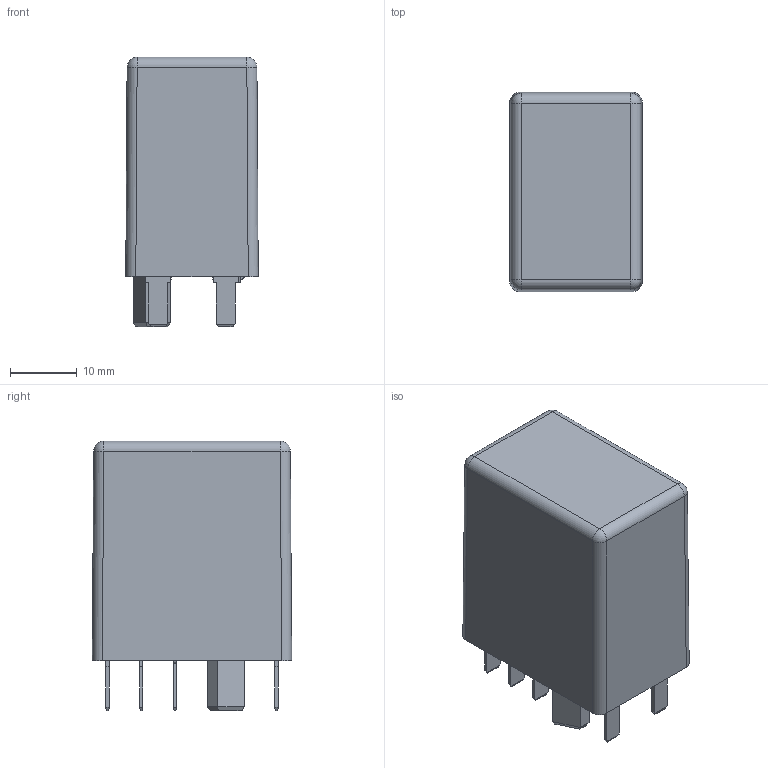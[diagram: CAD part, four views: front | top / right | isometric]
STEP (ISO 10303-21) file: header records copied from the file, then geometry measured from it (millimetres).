
FILE_DESCRIPTION((''),'2;1');
FILE_NAME('I:\TI\Bibliotheek\Inventor\Relais\CU-G\CU.stp','2010-09-16T15:04:08',('oey'),(''),'Autodesk Inventor 2011','Autodesk Inventor 2011','');
FILE_SCHEMA(('AUTOMOTIVE_DESIGN { 1 0 10303 214 1 1 1 1 }'));
Length unit declared in the file: millimetre
Products named in the file (1): CU
Bounding box: 19.8 x 29.8 x 40.3 mm (x, y, z)
Volume: 19148.9 mm3; surface area: 4776.2 mm2
Topology: 1 solids, 1 shells, 140 faces, 370 edges, 238 vertices
Faces by surface type: plane 120, cylinder 15, sphere 4, cone 1
Entity records: 4391 total; most frequent: CARTESIAN_POINT 749, ORIENTED_EDGE 732, DIRECTION 677, EDGE_CURVE 366, VECTOR 333, LINE 333, VERTEX_POINT 238, AXIS2_PLACEMENT_3D 172
